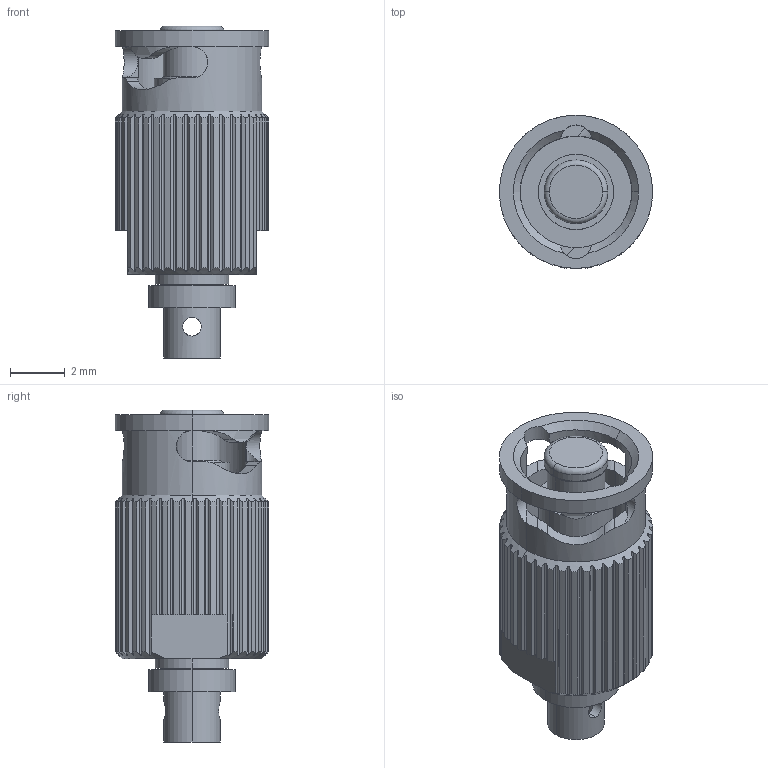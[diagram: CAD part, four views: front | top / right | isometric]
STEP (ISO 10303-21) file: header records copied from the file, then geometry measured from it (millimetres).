
FILE_DESCRIPTION (( 'STEP AP214' ), '1' );
FILE_NAME ('3221-60003.STEP', '2016-06-14T14:35:31', ( '' ), ( '' ), 'SwSTEP 2.0', 'SolidWorks 2015', '' );
FILE_SCHEMA (( 'AUTOMOTIVE_DESIGN' ));
Length unit declared in the file: inch
Products named in the file (2): 3221-60003
Bounding box: 5.59 x 5.59 x 12.1 mm (x, y, z)
Volume: 172.8 mm3; surface area: 343.4 mm2
Topology: 1 solids, 1 shells, 268 faces, 758 edges, 497 vertices
Faces by surface type: cylinder 140, plane 111, cone 11, torus 6
Entity records: 13798 total; most frequent: CARTESIAN_POINT 3679, ORIENTED_EDGE 1516, DIRECTION 1213, EDGE_CURVE 758, VERTEX_POINT 497, AXIS2_PLACEMENT_3D 461, VECTOR 291, LINE 291
